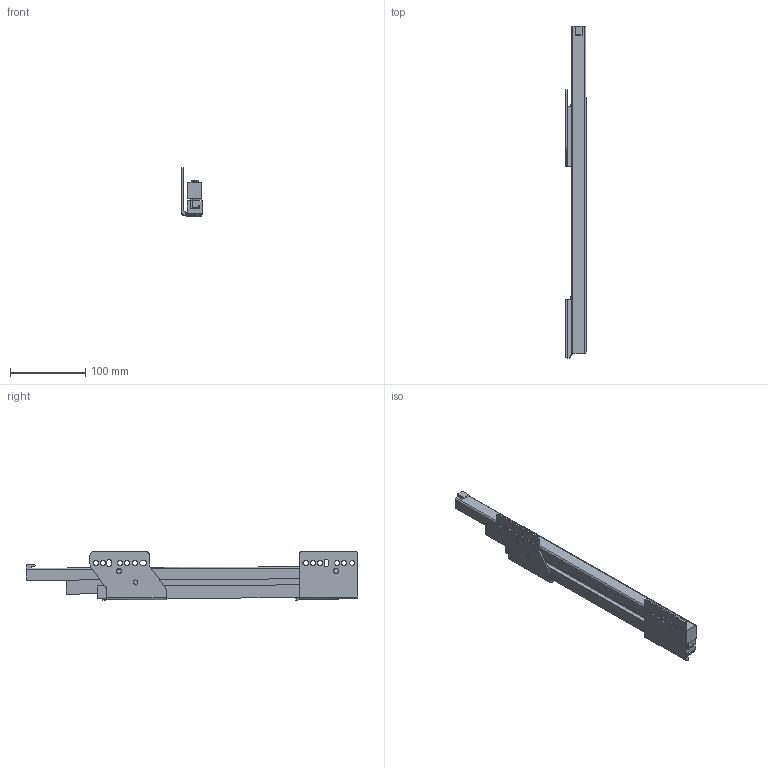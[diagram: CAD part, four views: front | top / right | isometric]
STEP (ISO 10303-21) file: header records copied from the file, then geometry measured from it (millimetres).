
FILE_DESCRIPTION (( 'STEP AP214' ), '1' );
FILE_NAME ('_IMOS_NOVA-Pro_KS_P904_LI_NL450_EB29.step', '2010-07-06T07:17:41', ( 'grass' ), ( '' ), 'SwSTEP 2.0', 'SolidWorks 2009', '' );
FILE_SCHEMA (( 'AUTOMOTIVE_DESIGN' ));
Length unit declared in the file: millimetre
Products named in the file (1): _IMOS_NOVA-Pro_KS_P904_LI_NL450_EB29
Bounding box: 26.75 x 440.35 x 64.46 mm (x, y, z)
Volume: 322193.1 mm3; surface area: 133262.9 mm2
Topology: 6 solids, 6 shells, 144 faces, 392 edges, 260 vertices
Faces by surface type: plane 89, cylinder 55
Entity records: 4691 total; most frequent: CARTESIAN_POINT 848, ORIENTED_EDGE 784, DIRECTION 765, EDGE_CURVE 392, LINE 275, VECTOR 275, VERTEX_POINT 260, AXIS2_PLACEMENT_3D 245
